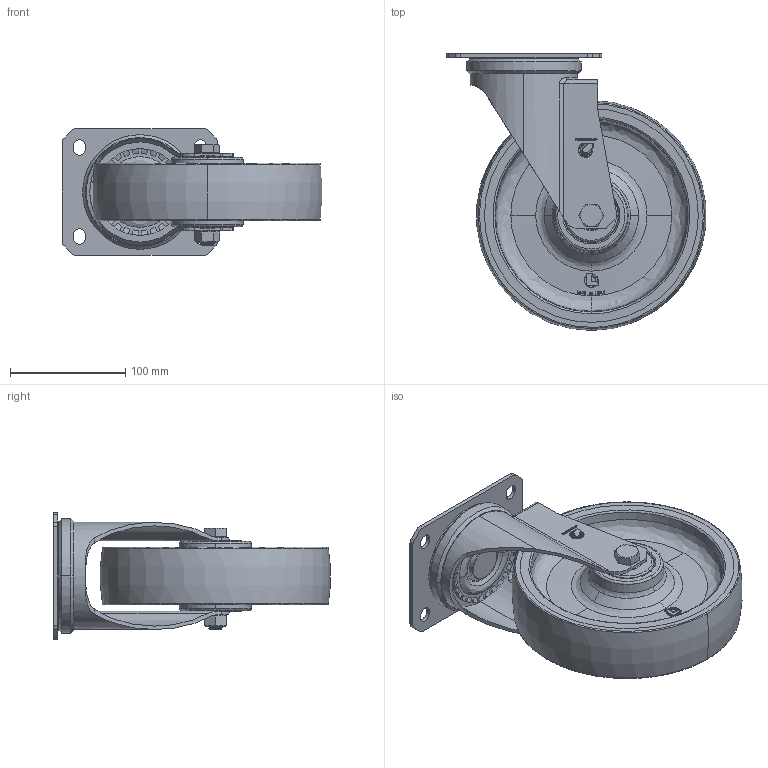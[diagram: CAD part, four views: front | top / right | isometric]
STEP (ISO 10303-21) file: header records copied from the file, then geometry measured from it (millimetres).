
FILE_DESCRIPTION (( 'STEP AP214' ), '1' );
FILE_NAME ('401694.STEP', '2020-02-03T07:34:58', ( '' ), ( '' ), 'SwSTEP 2.0', 'SolidWorks 2017', '' );
FILE_SCHEMA (( 'AUTOMOTIVE_DESIGN' ));
Length unit declared in the file: millimetre
Products named in the file (1): 401694
Bounding box: 225.36 x 240.18 x 110 mm (x, y, z)
Surface area: 259453.7 mm2 (no closed solid volume)
Topology: 0 solids, 20 shells, 573 faces, 2268 edges, 1691 vertices
Faces by surface type: plane 261, cylinder 155, cone 83, bspline 72, torus 2
Entity records: 38602 total; most frequent: CARTESIAN_POINT 14922, ORIENTED_EDGE 3569, DIRECTION 3115, EDGE_CURVE 2266, VERTEX_POINT 1691, VECTOR 1111, LINE 1111, AXIS2_PLACEMENT_3D 1002
